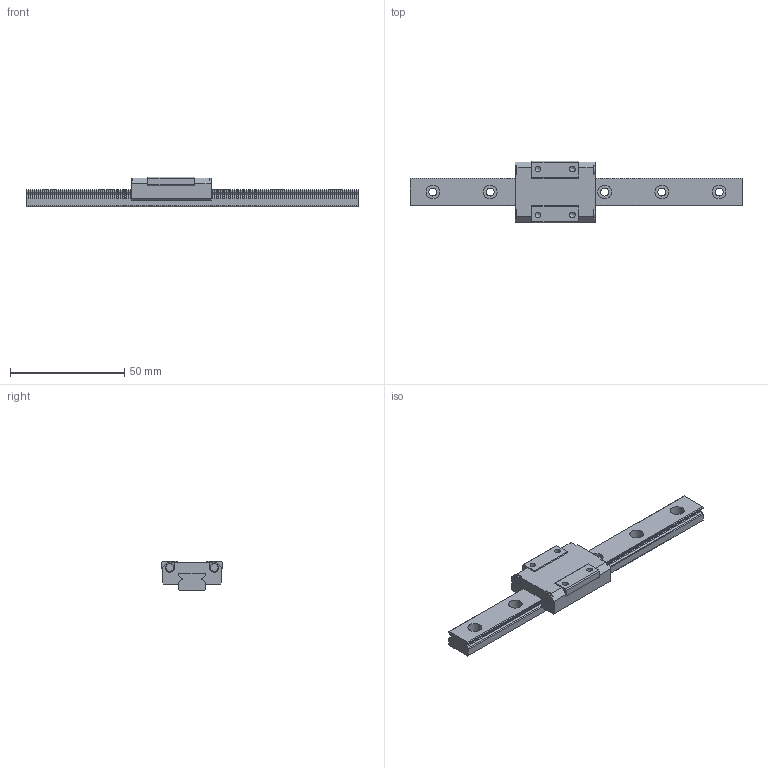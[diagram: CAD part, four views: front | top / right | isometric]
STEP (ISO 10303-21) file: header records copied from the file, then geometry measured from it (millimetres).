
FILE_DESCRIPTION((''),'2;1');
FILE_NAME('D:\製品 (図面)\カタログ用3D\リニアガイド関連\STEP形式\LGM\LGM12.stp','2010-06-02T15:55:19',('Tsuchiya'),(''),'Autodesk Inventor 10','Autodesk Inventor 10','');
FILE_SCHEMA(('AUTOMOTIVE_DESIGN { 1 0 10303 214 1 1 1 1 }'));
Length unit declared in the file: millimetre
Products named in the file (3): LGM12; LGM121; LGM122
Assembly tree (2 placements, depth 2):
  LGM12
    LGM121
    LGM122
Bounding box: 145 x 27 x 13 mm (x, y, z)
Volume: 18348.6 mm3; surface area: 10278.3 mm2
Topology: 2 solids, 2 shells, 124 faces, 330 edges, 220 vertices
Faces by surface type: plane 72, bspline 36, cylinder 16
Full cylindrical faces by diameter (mm): 3.5 x2
Entity records: 4066 total; most frequent: CARTESIAN_POINT 1083, ORIENTED_EDGE 596, DIRECTION 556, EDGE_CURVE 298, VECTOR 226, LINE 226, VERTEX_POINT 212, EDGE_LOOP 170
